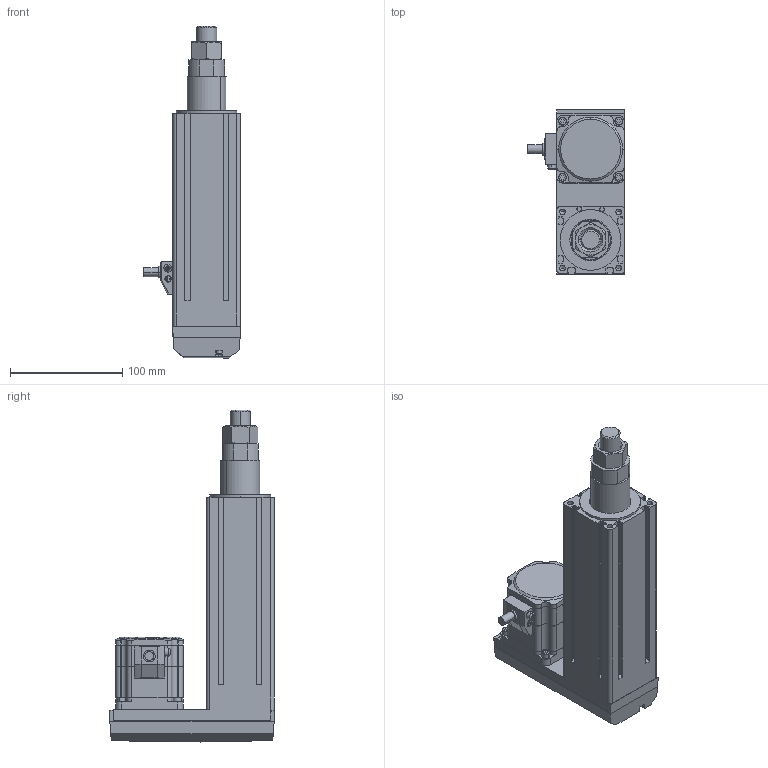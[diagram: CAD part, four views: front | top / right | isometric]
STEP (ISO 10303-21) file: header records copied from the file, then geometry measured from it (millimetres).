
FILE_DESCRIPTION (( 'STEP AP203' ), '1' );
FILE_NAME ('EACM6RD10ARAC.step', '2013-11-05T07:54:03', ( 'om' ), ( 'Hewlett-Packard Company' ), 'SwSTEP 2.0', 'SolidWorks 2011', '' );
FILE_SCHEMA (( 'CONFIG_CONTROL_DESIGN' ));
Length unit declared in the file: millimetre
Products named in the file (5): EACM6RD10ARAC; EACM6RD10ARAC_Nut; EACM6RD10ARAC_BASE; EACM6RD10ARAC_Rod; EACM6RD10ARAC_Motor
Assembly tree (4 placements, depth 2):
  EACM6RD10ARAC
    EACM6RD10ARAC_Nut
    EACM6RD10ARAC_BASE
    EACM6RD10ARAC_Motor
    EACM6RD10ARAC_Rod
Bounding box: 86 x 146.6 x 295.31 mm (x, y, z)
Volume: 1119525.4 mm3; surface area: 170164.3 mm2
Topology: 4 solids, 6 shells, 583 faces, 1513 edges, 985 vertices
Faces by surface type: plane 341, cylinder 196, cone 30, torus 12, bspline 4
Entity records: 18720 total; most frequent: CARTESIAN_POINT 3696, DIRECTION 3038, ORIENTED_EDGE 3010, EDGE_CURVE 1505, AXIS2_PLACEMENT_3D 1015, LINE 1008, VECTOR 1008, VERTEX_POINT 985
